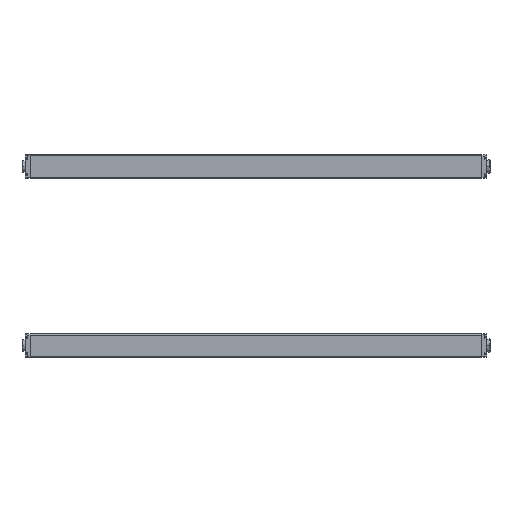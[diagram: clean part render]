
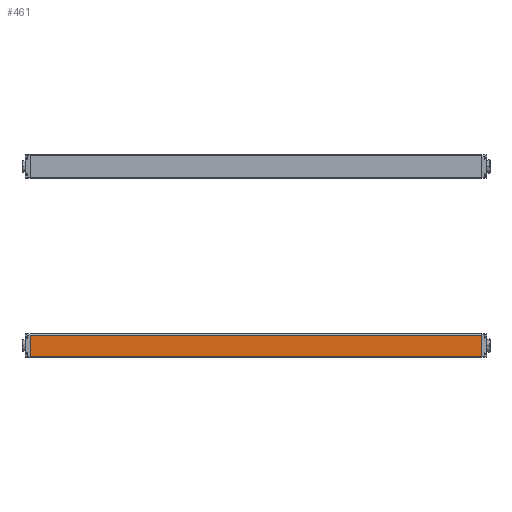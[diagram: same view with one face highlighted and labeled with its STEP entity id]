
A CAD part, left-side view. The second image highlights one B-rep face of the part: STEP entity #461.
In plain terms, the highlighted planar face has unit normal (-1, 0, -0.009) as drawn and (1, 0, 0) by its records, which use the part's own axes.
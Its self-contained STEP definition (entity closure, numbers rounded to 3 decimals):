
#461 = ADVANCED_FACE ( 'NONE', ( #17569 ), #5113, .F. ) ;
#476 = CARTESIAN_POINT ( 'NONE',  ( 15., 580., 10.9 ) ) ;
#1255 = VERTEX_POINT ( 'NONE', #13344 ) ;
#1973 = VECTOR ( 'NONE', #9365, 1000. ) ;
#2056 = EDGE_CURVE ( 'NONE', #3623, #16273, #15489, .T. ) ;
#2386 = DIRECTION ( 'NONE',  ( 0., 0., -1. ) ) ;
#2815 = VECTOR ( 'NONE', #8573, 1000. ) ;
#3031 = CARTESIAN_POINT ( 'NONE',  ( 15., 0., -16.9 ) ) ;
#3223 = VECTOR ( 'NONE', #2386, 1000. ) ;
#3229 = ORIENTED_EDGE ( 'NONE', *, *, #2056, .T. ) ;
#3623 = VERTEX_POINT ( 'NONE', #8874 ) ;
#3747 = DIRECTION ( 'NONE',  ( 0., 0., 1. ) ) ;
#3829 = CARTESIAN_POINT ( 'NONE',  ( 15., 580., -16.693 ) ) ;
#5113 = PLANE ( 'NONE',  #10733 ) ;
#6042 = DIRECTION ( 'NONE',  ( 0., -1., 0. ) ) ;
#6112 = EDGE_LOOP ( 'NONE', ( #3229, #14925, #12568, #15022 ) ) ;
#6127 = CARTESIAN_POINT ( 'NONE',  ( 15., 580., 10.9 ) ) ;
#7219 = EDGE_CURVE ( 'NONE', #7737, #3623, #12945, .T. ) ;
#7737 = VERTEX_POINT ( 'NONE', #6127 ) ;
#8573 = DIRECTION ( 'NONE',  ( 0., 0., -1. ) ) ;
#8874 = CARTESIAN_POINT ( 'NONE',  ( 15., 0., 10.9 ) ) ;
#8883 = VECTOR ( 'NONE', #6042, 1000. ) ;
#9172 = EDGE_CURVE ( 'NONE', #16273, #1255, #12088, .T. ) ;
#9303 = LINE ( 'NONE', #14848, #3223 ) ;
#9365 = DIRECTION ( 'NONE',  ( 0., 1., 0. ) ) ;
#10499 = EDGE_CURVE ( 'NONE', #7737, #1255, #9303, .T. ) ;
#10650 = CARTESIAN_POINT ( 'NONE',  ( 15., 580., -16.9 ) ) ;
#10733 = AXIS2_PLACEMENT_3D ( 'NONE', #10650, #16197, #3747 ) ;
#12088 = LINE ( 'NONE', #3829, #1973 ) ;
#12568 = ORIENTED_EDGE ( 'NONE', *, *, #10499, .F. ) ;
#12945 = LINE ( 'NONE', #476, #8883 ) ;
#13344 = CARTESIAN_POINT ( 'NONE',  ( 15., 580., -16.693 ) ) ;
#14848 = CARTESIAN_POINT ( 'NONE',  ( 15., 580., -16.9 ) ) ;
#14925 = ORIENTED_EDGE ( 'NONE', *, *, #9172, .T. ) ;
#15022 = ORIENTED_EDGE ( 'NONE', *, *, #7219, .T. ) ;
#15102 = CARTESIAN_POINT ( 'NONE',  ( 15., 0., -16.693 ) ) ;
#15489 = LINE ( 'NONE', #3031, #2815 ) ;
#16197 = DIRECTION ( 'NONE',  ( -1., 0., 0. ) ) ;
#16273 = VERTEX_POINT ( 'NONE', #15102 ) ;
#17569 = FACE_OUTER_BOUND ( 'NONE', #6112, .T. ) ;
